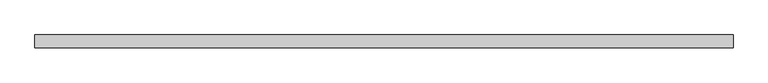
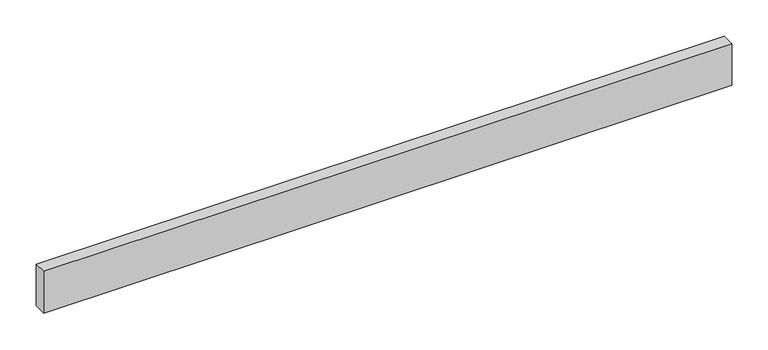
"""IFC4 building model written with IfcOpenShell, lengths in millimetres: furniture geometry, Frontispício : Frontispício."""

from ifc_helpers import new_model, si_unit, origin, origin_with_axes, place, context, project, spatial, polyline, outline, extrude, source, transform, mapped, element, save


def furniture_e1e120f5(model_context):
    return source(origin(), model_context, "Body", "SweptSolid", [
        extrude(outline(polyline([(173.677619, 0.0), (173.677619, -20.0), (-916.3223754, -20.0), (-916.3223754, 0.0), (173.677619, 0.0)])), origin_with_axes(), (0.0, 0.0, 1.0), 70.0),
    ])


if __name__ == "__main__":
    model = new_model("IFC4")
    model_context = context("Model", 3, world=origin())
    ifc_project = project(units=[si_unit("LENGTHUNIT", "METRE", prefix="MILLI")], contexts=[model_context])
    site = spatial("IfcSite", under=ifc_project)
    building = spatial("IfcBuilding", under=site)
    placement = place(None, origin())
    furniture_shape = furniture_e1e120f5(model_context)
    element("IfcFurniture", 1, ObjectType="Frontispício : Frontispício", at=placement, inside=building, context=model_context, shape_type="MappedRepresentation", body=[
        mapped(furniture_shape, transform((0.0, 0.0, 0.0), x_axis=(1.0, 0.0, 0.0), y_axis=(0.0, 1.0, 0.0), z_axis=(0.0, 0.0, 1.0))),
    ])
    save(model, "model.ifc")
